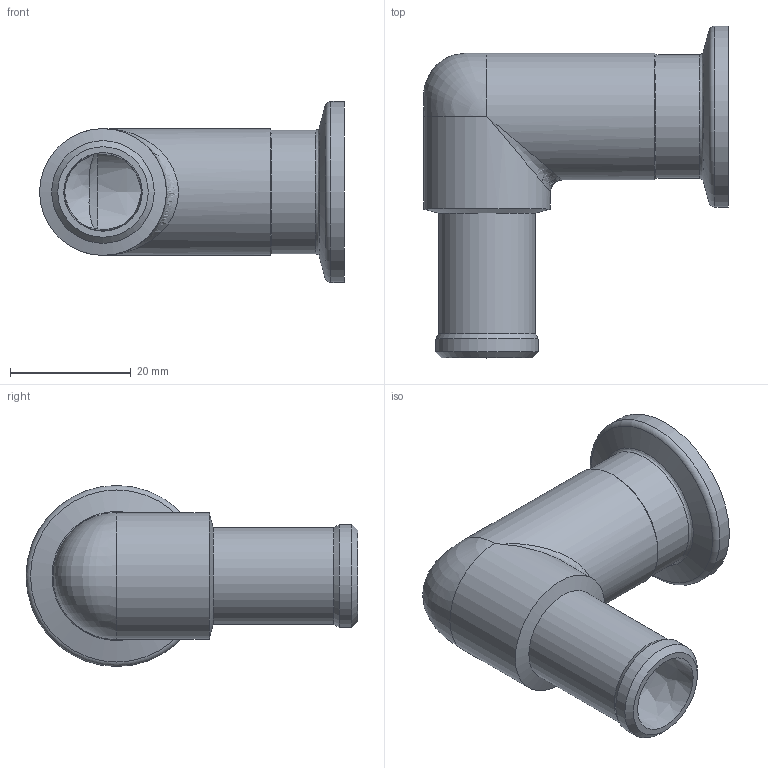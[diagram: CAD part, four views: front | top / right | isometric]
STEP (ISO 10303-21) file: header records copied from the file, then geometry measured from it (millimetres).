
FILE_DESCRIPTION((''),'2;1');
FILE_NAME('W:\M18215.stp','2006-08-30T11:37:40',('KAA'),(''),'Autodesk Inventor 10','Autodesk Inventor 10','');
FILE_SCHEMA(('CONFIG_CONTROL_DESIGN'));
Length unit declared in the file: millimetre
Products named in the file (1): M211-257
Bounding box: 50.5 x 55 x 30 mm (x, y, z)
Volume: 11899.8 mm3; surface area: 9498.8 mm2
Topology: 1 solids, 1 shells, 23 faces, 53 edges, 29 vertices
Faces by surface type: bspline 7, cylinder 7, cone 5, plane 3, torus 1
Full cylindrical faces by diameter (mm): 16 x1, 17 x1, 17.2 x1, 20.5 x1, 21 x2, 30 x1
Entity records: 1247 total; most frequent: CARTESIAN_POINT 756, DIRECTION 84, ORIENTED_EDGE 58, AXIS2_PLACEMENT_3D 42, EDGE_LOOP 42, EDGE_CURVE 29, VERTEX_POINT 25, CIRCLE 23
